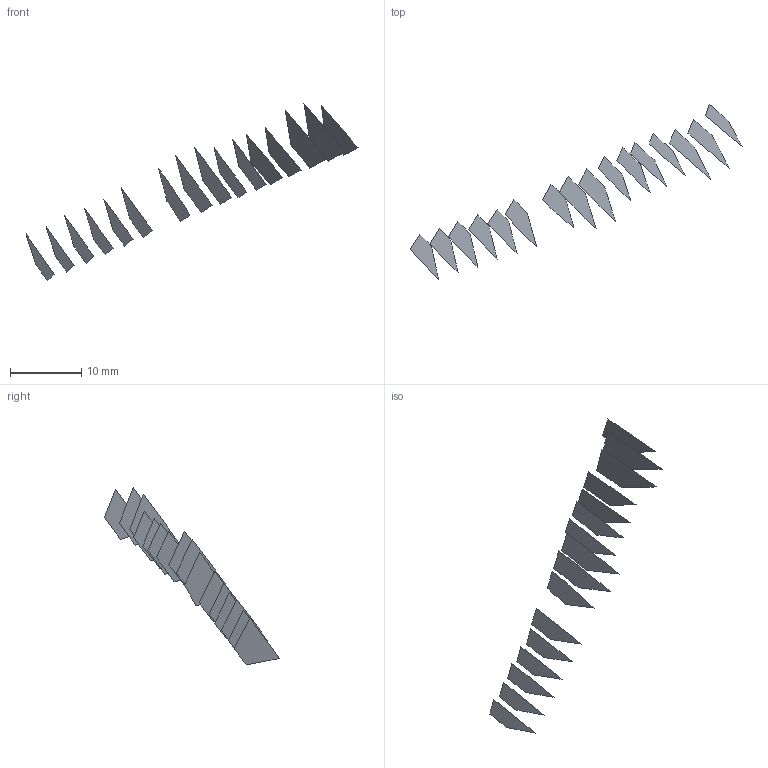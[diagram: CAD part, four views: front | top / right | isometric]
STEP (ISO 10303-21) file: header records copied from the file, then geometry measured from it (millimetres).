
FILE_DESCRIPTION(('FreeCAD Model'),'2;1');
FILE_NAME('Open CASCADE Shape Model','2022-05-22T07:50:32',('FreeCAD'),( 'FreeCAD'),'Open CASCADE STEP processor 7.5','FreeCAD','Unknown');
FILE_SCHEMA(('AUTOMOTIVE_DESIGN { 1 0 10303 214 1 1 1 1 }'));
Length unit declared in the file: millimetre
Products named in the file (17): Open CASCADE STEP translator 7.5 4; Open CASCADE STEP translator 7.5 4.1; Open CASCADE STEP translator 7.5 4.2; Open CASCADE STEP translator 7.5 4.3; Open CASCADE STEP translator 7.5 4.4; Open CASCADE STEP translator 7.5 4.5; Open CASCADE STEP translator 7.5 4.6; Open CASCADE STEP translator 7.5 4.7; Open CASCADE STEP translator 7.5 4.8; Open CASCADE STEP translator 7.5 4.9; Open CASCADE STEP translator 7.5 4.10; Open CASCADE STEP translator 7.5 4.11; Open CASCADE STEP translator 7.5 4.12; Open CASCADE STEP translator 7.5 4.13; Open CASCADE STEP translator 7.5 4.14; Open CASCADE STEP translator 7.5 4.15; Open CASCADE STEP translator 7.5 4.16
Assembly tree (16 placements, depth 2):
  Open CASCADE STEP translator 7.5 4
    Open CASCADE STEP translator 7.5 4.1
    Open CASCADE STEP translator 7.5 4.2
    Open CASCADE STEP translator 7.5 4.3
    Open CASCADE STEP translator 7.5 4.4
    Open CASCADE STEP translator 7.5 4.5
    Open CASCADE STEP translator 7.5 4.6
    Open CASCADE STEP translator 7.5 4.7
    Open CASCADE STEP translator 7.5 4.8
    Open CASCADE STEP translator 7.5 4.9
    Open CASCADE STEP translator 7.5 4.10
    Open CASCADE STEP translator 7.5 4.11
    Open CASCADE STEP translator 7.5 4.12
    Open CASCADE STEP translator 7.5 4.13
    Open CASCADE STEP translator 7.5 4.14
    Open CASCADE STEP translator 7.5 4.15
    Open CASCADE STEP translator 7.5 4.16
Bounding box: 46.73 x 24.69 x 24.99 mm (x, y, z)
Surface area: 445.4 mm2 (no closed solid volume)
Topology: 0 solids, 16 shells, 16 faces, 167 edges, 167 vertices
Faces by surface type: bspline 16
Entity records: 2635 total; most frequent: CARTESIAN_POINT 916, B_SPLINE_CURVE_WITH_KNOTS 334, ORIENTED_EDGE 167, EDGE_CURVE 167, VERTEX_POINT 167, SURFACE_CURVE 167, PCURVE 167, DEFINITIONAL_REPRESENTATION 167
